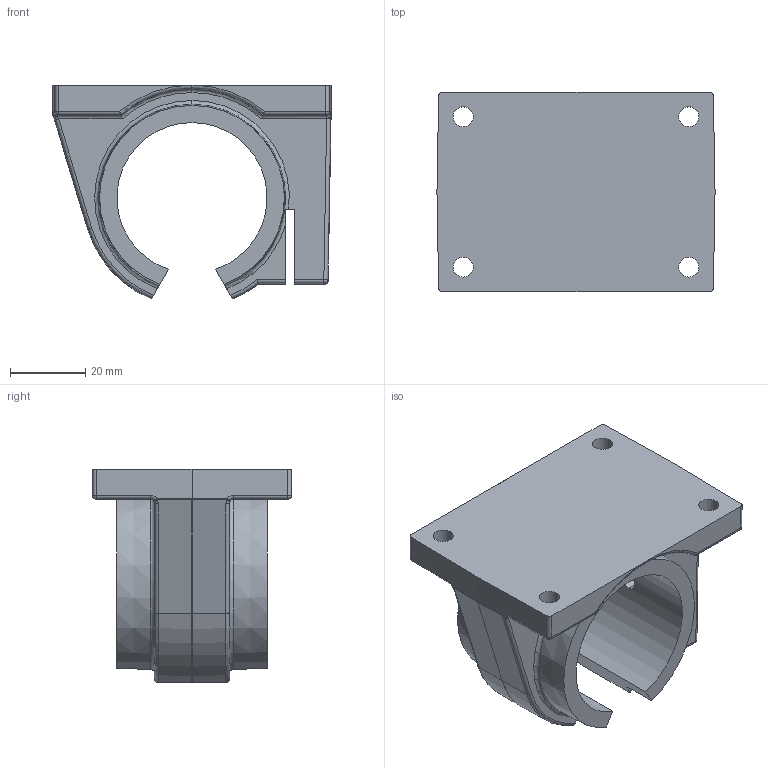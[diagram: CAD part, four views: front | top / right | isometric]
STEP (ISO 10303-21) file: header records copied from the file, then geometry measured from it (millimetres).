
FILE_DESCRIPTION (( 'STEP AP203' ), '1' );
FILE_NAME ('KGGOE68-25.step', '2020-03-10T16:18:22', ( '' ), ( '' ), 'SwSTEP 2.0', 'SolidWorks 2019', '' );
FILE_SCHEMA (( 'CONFIG_CONTROL_DESIGN' ));
Length unit declared in the file: millimetre
Products named in the file (2): KGGOE68-25
Bounding box: 73.98 x 53 x 56.91 mm (x, y, z)
Volume: 68544 mm3; surface area: 23270.5 mm2
Topology: 1 solids, 1 shells, 137 faces, 340 edges, 204 vertices
Faces by surface type: cylinder 58, plane 37, torus 18, sphere 9, bspline 8, cone 7
Entity records: 4520 total; most frequent: CARTESIAN_POINT 1184, ORIENTED_EDGE 676, DIRECTION 674, EDGE_CURVE 338, AXIS2_PLACEMENT_3D 270, VERTEX_POINT 204, EDGE_LOOP 152, CIRCLE 139
